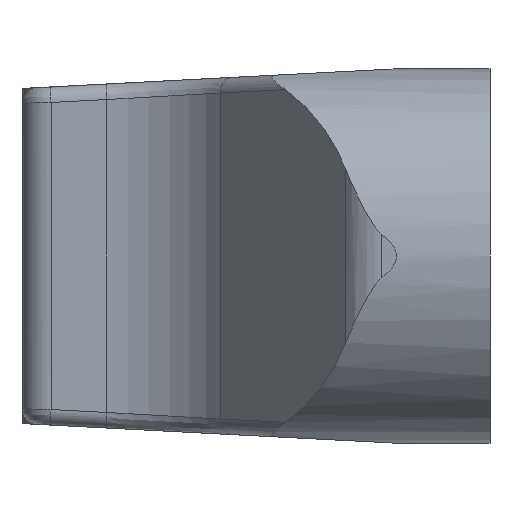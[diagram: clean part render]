
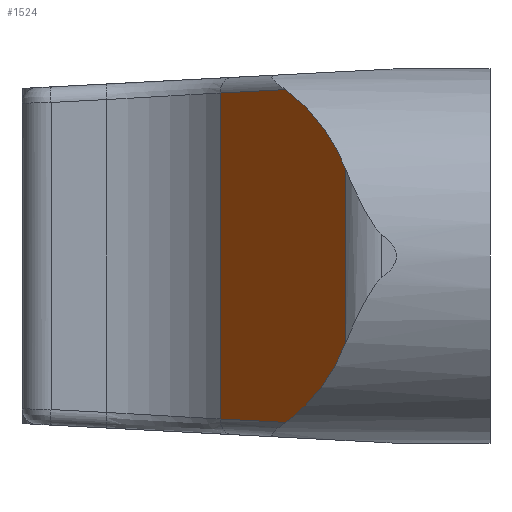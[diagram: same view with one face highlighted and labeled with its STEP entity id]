
A CAD part, left-side view. The second image highlights one B-rep face of the part: STEP entity #1524.
In plain terms, the highlighted planar face has unit normal (-0.602, 0.798, 0).
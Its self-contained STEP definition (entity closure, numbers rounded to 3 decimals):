
#119 = ORIENTED_EDGE ( 'NONE', *, *, #7402, .F. ) ;
#154 = VERTEX_POINT ( 'NONE', #5862 ) ;
#188 = EDGE_CURVE ( 'NONE', #6681, #7431, #1489, .T. ) ;
#260 = CARTESIAN_POINT ( 'NONE',  ( 2.516, 4.113, -7.764 ) ) ;
#311 = EDGE_CURVE ( 'NONE', #6681, #154, #1582, .T. ) ;
#312 = CARTESIAN_POINT ( 'NONE',  ( 12.026, 11.284, 10.449 ) ) ;
#368 = DIRECTION ( 'NONE',  ( -0.798, -0.602, 0.032 ) ) ;
#382 = VERTEX_POINT ( 'NONE', #3694 ) ;
#451 = ORIENTED_EDGE ( 'NONE', *, *, #311, .F. ) ;
#542 = EDGE_CURVE ( 'NONE', #154, #3239, #2229, .T. ) ;
#652 = DIRECTION ( 'NONE',  ( 0.798, 0.602, 0. ) ) ;
#811 = CARTESIAN_POINT ( 'NONE',  ( 8.684, 8.764, -10.581 ) ) ;
#924 =( BOUNDED_CURVE ( )  B_SPLINE_CURVE ( 3, ( #7497, #260, #5158, #1496 ),
 .UNSPECIFIED., .F., .T. ) 
 B_SPLINE_CURVE_WITH_KNOTS ( ( 4, 4 ),
 ( 0.481, 1.095 ),
 .UNSPECIFIED. ) 
 CURVE ( )  GEOMETRIC_REPRESENTATION_ITEM ( )  RATIONAL_B_SPLINE_CURVE ( ( 1., 0.969, 0.969, 1. ) ) 
 REPRESENTATION_ITEM ( '' )  );
#1032 = CARTESIAN_POINT ( 'NONE',  ( 1.361, 3.242, 12. ) ) ;
#1051 = ORIENTED_EDGE ( 'NONE', *, *, #188, .T. ) ;
#1310 = FACE_OUTER_BOUND ( 'NONE', #6829, .T. ) ;
#1489 = LINE ( 'NONE', #6161, #4734 ) ;
#1496 = CARTESIAN_POINT ( 'NONE',  ( 6.504, 7.12, -10.667 ) ) ;
#1524 = ADVANCED_FACE ( 'NONE', ( #1310 ), #5935, .F. ) ;
#1582 = LINE ( 'NONE', #312, #7825 ) ;
#2034 = DIRECTION ( 'NONE',  ( 0.798, 0.602, 0.032 ) ) ;
#2060 = CARTESIAN_POINT ( 'NONE',  ( 12.05, 11.302, -10.448 ) ) ;
#2091 = ORIENTED_EDGE ( 'NONE', *, *, #542, .F. ) ;
#2207 = LINE ( 'NONE', #1032, #6855 ) ;
#2229 =( BOUNDED_CURVE ( )  B_SPLINE_CURVE ( 3, ( #4988, #4962, #5089, #5117 ),
 .UNSPECIFIED., .F., .F. ) 
 B_SPLINE_CURVE_WITH_KNOTS ( ( 4, 4 ),
 ( 5.188, 5.802 ),
 .UNSPECIFIED. ) 
 CURVE ( )  GEOMETRIC_REPRESENTATION_ITEM ( )  RATIONAL_B_SPLINE_CURVE ( ( 1., 0.969, 0.969, 1. ) ) 
 REPRESENTATION_ITEM ( '' )  );
#3024 = CARTESIAN_POINT ( 'NONE',  ( 12.05, 11.302, 10.448 ) ) ;
#3239 = VERTEX_POINT ( 'NONE', #4668 ) ;
#3694 = CARTESIAN_POINT ( 'NONE',  ( 6.504, 7.12, -10.667 ) ) ;
#3754 = AXIS2_PLACEMENT_3D ( 'NONE', #6918, #6963, #652 ) ;
#4668 = CARTESIAN_POINT ( 'NONE',  ( 1.361, 3.242, 5.551 ) ) ;
#4720 = DIRECTION ( 'NONE',  ( 0., 0., -1. ) ) ;
#4734 = VECTOR ( 'NONE', #6061, 1000. ) ;
#4962 = CARTESIAN_POINT ( 'NONE',  ( 4.285, 5.447, 9.524 ) ) ;
#4988 = CARTESIAN_POINT ( 'NONE',  ( 6.504, 7.12, 10.667 ) ) ;
#5089 = CARTESIAN_POINT ( 'NONE',  ( 2.516, 4.113, 7.764 ) ) ;
#5117 = CARTESIAN_POINT ( 'NONE',  ( 1.361, 3.242, 5.551 ) ) ;
#5158 = CARTESIAN_POINT ( 'NONE',  ( 4.285, 5.447, -9.524 ) ) ;
#5609 = LINE ( 'NONE', #811, #6998 ) ;
#5706 = ORIENTED_EDGE ( 'NONE', *, *, #6420, .F. ) ;
#5862 = CARTESIAN_POINT ( 'NONE',  ( 6.504, 7.12, 10.667 ) ) ;
#5935 = PLANE ( 'NONE',  #3754 ) ;
#6061 = DIRECTION ( 'NONE',  ( 0., 0., -1. ) ) ;
#6147 = CARTESIAN_POINT ( 'NONE',  ( 1.361, 3.242, -5.551 ) ) ;
#6161 = CARTESIAN_POINT ( 'NONE',  ( 12.05, 11.302, 12. ) ) ;
#6420 = EDGE_CURVE ( 'NONE', #3239, #7647, #2207, .T. ) ;
#6681 = VERTEX_POINT ( 'NONE', #3024 ) ;
#6829 = EDGE_LOOP ( 'NONE', ( #1051, #119, #6834, #5706, #2091, #451 ) ) ;
#6834 = ORIENTED_EDGE ( 'NONE', *, *, #7012, .F. ) ;
#6855 = VECTOR ( 'NONE', #4720, 1000. ) ;
#6918 = CARTESIAN_POINT ( 'NONE',  ( 12.05, 11.302, 12. ) ) ;
#6963 = DIRECTION ( 'NONE',  ( 0.602, -0.798, 0. ) ) ;
#6998 = VECTOR ( 'NONE', #2034, 1000. ) ;
#7012 = EDGE_CURVE ( 'NONE', #7647, #382, #924, .T. ) ;
#7402 = EDGE_CURVE ( 'NONE', #382, #7431, #5609, .T. ) ;
#7431 = VERTEX_POINT ( 'NONE', #2060 ) ;
#7497 = CARTESIAN_POINT ( 'NONE',  ( 1.361, 3.242, -5.551 ) ) ;
#7647 = VERTEX_POINT ( 'NONE', #6147 ) ;
#7825 = VECTOR ( 'NONE', #368, 1000. ) ;
